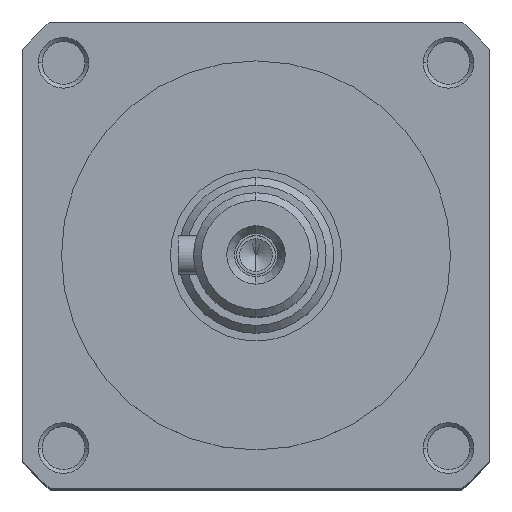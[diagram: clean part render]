
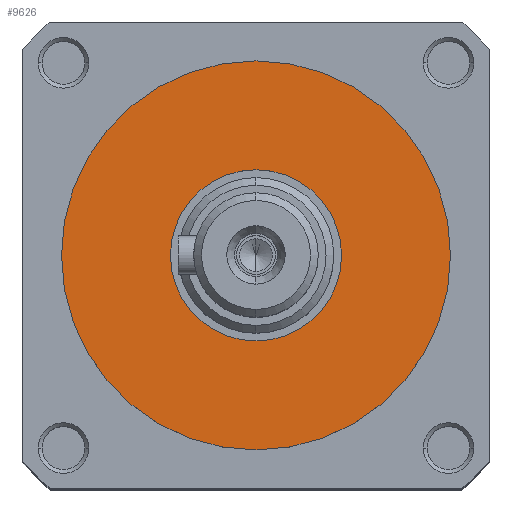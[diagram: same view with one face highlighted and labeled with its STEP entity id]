
A CAD part, top view. The second image highlights one B-rep face of the part: STEP entity #9626.
In plain terms, the highlighted planar face has unit normal (0, 0, 1).
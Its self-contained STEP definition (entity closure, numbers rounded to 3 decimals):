
#9176 = VERTEX_POINT ( 'NONE', #14294 ) ;
#9218 = EDGE_CURVE ( 'NONE', #9219, #9176, #14217, .T. ) ;
#9219 = VERTEX_POINT ( 'NONE', #14207 ) ;
#9453 = EDGE_CURVE ( 'NONE', #9454, #9455, #15024, .T. ) ;
#9454 = VERTEX_POINT ( 'NONE', #15007 ) ;
#9455 = VERTEX_POINT ( 'NONE', #15006 ) ;
#9530 = EDGE_CURVE ( 'NONE', #9176, #9219, #15079, .T. ) ;
#9616 = ORIENTED_EDGE ( 'NONE', *, *, #9453, .T. ) ;
#9626 = ADVANCED_FACE ( 'NONE', ( #15288, #15287 ), #14981, .T. ) ;
#9630 = EDGE_LOOP ( 'NONE', ( #9675, #9631 ) ) ;
#9631 = ORIENTED_EDGE ( 'NONE', *, *, #9218, .T. ) ;
#9675 = ORIENTED_EDGE ( 'NONE', *, *, #9530, .T. ) ;
#9681 = EDGE_LOOP ( 'NONE', ( #9682, #9616 ) ) ;
#9682 = ORIENTED_EDGE ( 'NONE', *, *, #9688, .T. ) ;
#9688 = EDGE_CURVE ( 'NONE', #9455, #9454, #15412, .T. ) ;
#14207 = CARTESIAN_POINT ( 'NONE',  ( 11., 0., 11.5 ) ) ;
#14208 = DIRECTION ( 'NONE',  ( -1., 0., 0. ) ) ;
#14209 = DIRECTION ( 'NONE',  ( 0., 0., -1. ) ) ;
#14210 = CARTESIAN_POINT ( 'NONE',  ( 0., 0., 11.5 ) ) ;
#14211 = AXIS2_PLACEMENT_3D ( 'NONE', #14210, #14209, #14208 ) ;
#14217 = CIRCLE ( 'NONE', #14211, 11. ) ;
#14294 = CARTESIAN_POINT ( 'NONE',  ( -11., 0., 11.5 ) ) ;
#14974 = AXIS2_PLACEMENT_3D ( 'NONE', #15001, #15000, #15114 ) ;
#14981 = PLANE ( 'NONE',  #14974 ) ;
#15000 = DIRECTION ( 'NONE',  ( 0., 0., 1. ) ) ;
#15001 = CARTESIAN_POINT ( 'NONE',  ( 0., 0., 11.5 ) ) ;
#15006 = CARTESIAN_POINT ( 'NONE',  ( -25., 0., 11.5 ) ) ;
#15007 = CARTESIAN_POINT ( 'NONE',  ( 25., 0., 11.5 ) ) ;
#15008 = DIRECTION ( 'NONE',  ( 1., 0., 0. ) ) ;
#15009 = DIRECTION ( 'NONE',  ( 0., 0., 1. ) ) ;
#15024 = CIRCLE ( 'NONE', #15041, 25. ) ;
#15040 = CARTESIAN_POINT ( 'NONE',  ( 0., 0., 11.5 ) ) ;
#15041 = AXIS2_PLACEMENT_3D ( 'NONE', #15040, #15009, #15008 ) ;
#15072 = DIRECTION ( 'NONE',  ( -1., 0., 0. ) ) ;
#15073 = DIRECTION ( 'NONE',  ( 0., 0., -1. ) ) ;
#15074 = CARTESIAN_POINT ( 'NONE',  ( 0., 0., 11.5 ) ) ;
#15075 = AXIS2_PLACEMENT_3D ( 'NONE', #15074, #15073, #15072 ) ;
#15079 = CIRCLE ( 'NONE', #15075, 11. ) ;
#15114 = DIRECTION ( 'NONE',  ( 1., 0., 0. ) ) ;
#15287 = FACE_OUTER_BOUND ( 'NONE', #9681, .T. ) ;
#15288 = FACE_BOUND ( 'NONE', #9630, .T. ) ;
#15412 = CIRCLE ( 'NONE', #15431, 25. ) ;
#15415 = DIRECTION ( 'NONE',  ( 1., 0., 0. ) ) ;
#15419 = CARTESIAN_POINT ( 'NONE',  ( 0., 0., 11.5 ) ) ;
#15430 = DIRECTION ( 'NONE',  ( 0., 0., 1. ) ) ;
#15431 = AXIS2_PLACEMENT_3D ( 'NONE', #15419, #15430, #15415 ) ;
